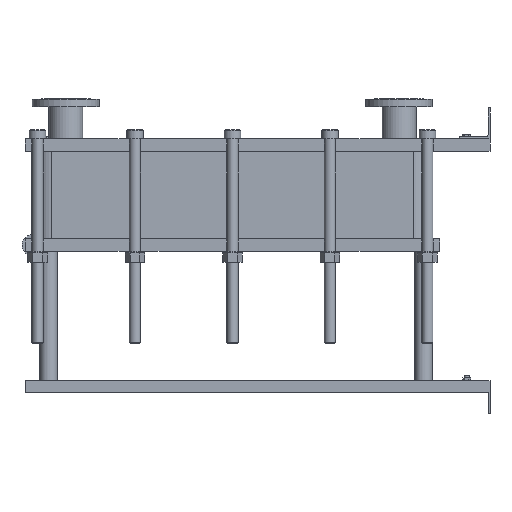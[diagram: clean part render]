
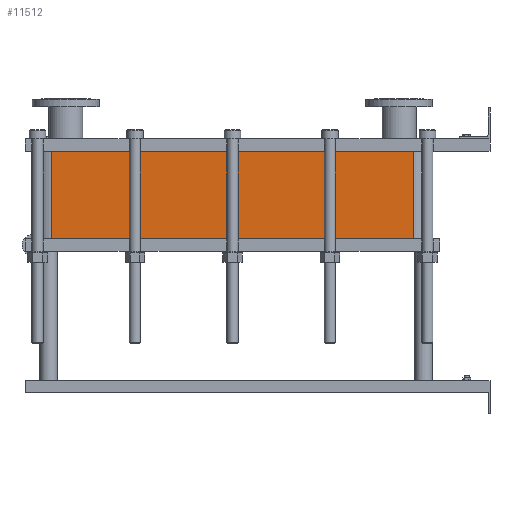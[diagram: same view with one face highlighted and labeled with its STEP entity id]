
A CAD part, left-side view. The second image highlights one B-rep face of the part: STEP entity #11512.
In plain terms, the highlighted planar face has unit normal (-1, 0, 0).
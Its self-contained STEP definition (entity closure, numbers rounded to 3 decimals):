
#1129=LINE('',#23232,#2102);
#1130=LINE('',#23236,#2103);
#1131=LINE('',#23238,#2104);
#1132=LINE('',#23239,#2105);
#2102=VECTOR('',#15887,10.);
#2103=VECTOR('',#15892,10.);
#2104=VECTOR('',#15893,10.);
#2105=VECTOR('',#15894,10.);
#3267=FACE_OUTER_BOUND('',#4093,.T.);
#4093=EDGE_LOOP('',(#10103,#10104,#10105,#10106));
#5642=VERTEX_POINT('',#23229);
#5643=VERTEX_POINT('',#23231);
#5644=VERTEX_POINT('',#23235);
#5645=VERTEX_POINT('',#23237);
#7159=EDGE_CURVE('',#5643,#5642,#1129,.T.);
#7161=EDGE_CURVE('',#5642,#5644,#1130,.T.);
#7162=EDGE_CURVE('',#5645,#5644,#1131,.T.);
#7163=EDGE_CURVE('',#5645,#5643,#1132,.T.);
#10103=ORIENTED_EDGE('',*,*,#7161,.T.);
#10104=ORIENTED_EDGE('',*,*,#7162,.F.);
#10105=ORIENTED_EDGE('',*,*,#7163,.T.);
#10106=ORIENTED_EDGE('',*,*,#7159,.T.);
#10857=PLANE('',#12751);
#11512=ADVANCED_FACE('',(#3267),#10857,.T.);
#12751=AXIS2_PLACEMENT_3D('',#23234,#15890,#15891);
#15887=DIRECTION('',(0.,0.,-1.));
#15890=DIRECTION('center_axis',(-1.,0.,0.));
#15891=DIRECTION('ref_axis',(0.,1.,0.));
#15892=DIRECTION('',(0.,-1.,0.));
#15893=DIRECTION('',(0.,0.,-1.));
#15894=DIRECTION('',(0.,1.,0.));
#23229=CARTESIAN_POINT('',(-200.,1414.,-282.9));
#23231=CARTESIAN_POINT('',(-200.,1414.,0.));
#23232=CARTESIAN_POINT('',(-200.,1414.,0.));
#23234=CARTESIAN_POINT('Origin',(-200.,248.,0.));
#23235=CARTESIAN_POINT('',(-200.,248.,-282.9));
#23236=CARTESIAN_POINT('',(-200.,539.5,-282.9));
#23237=CARTESIAN_POINT('',(-200.,248.,0.));
#23238=CARTESIAN_POINT('',(-200.,248.,0.));
#23239=CARTESIAN_POINT('',(-200.,248.,0.));
